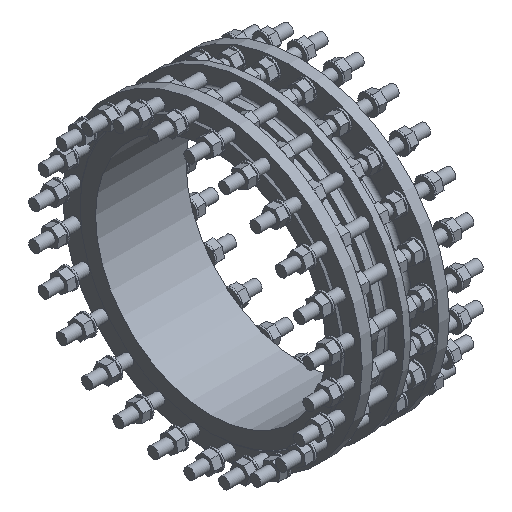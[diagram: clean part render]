
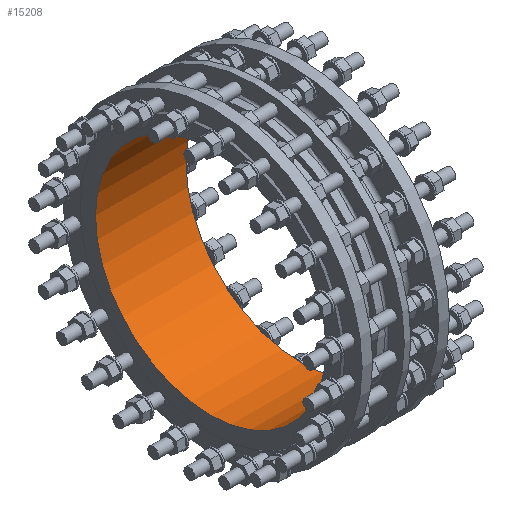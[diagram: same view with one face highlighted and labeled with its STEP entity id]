
A CAD part, isometric view. The second image highlights one B-rep face of the part: STEP entity #15208.
In plain terms, the highlighted cylindrical face has radius 350 mm (diameter 700 mm), a full revolution.
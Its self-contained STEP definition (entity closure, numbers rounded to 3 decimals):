
#2220 = CIRCLE ( 'NONE', #15096, 350. ) ;
#4308 = VERTEX_POINT ( 'NONE', #9689 ) ;
#4692 = EDGE_LOOP ( 'NONE', ( #27743 ) ) ;
#4708 = DIRECTION ( 'NONE',  ( 0., 0., 1. ) ) ;
#9689 = CARTESIAN_POINT ( 'NONE',  ( -20., 0., -350. ) ) ;
#10081 = DIRECTION ( 'NONE',  ( -1., 0., 0. ) ) ;
#10515 = DIRECTION ( 'NONE',  ( -1., 0., 0. ) ) ;
#11030 = DIRECTION ( 'NONE',  ( 1., 0., 0. ) ) ;
#15096 = AXIS2_PLACEMENT_3D ( 'NONE', #16088, #10515, #27799 ) ;
#15208 = ADVANCED_FACE ( 'NONE', ( #33512, #21595 ), #16031, .F. ) ;
#15351 = VERTEX_POINT ( 'NONE', #33194 ) ;
#15975 = EDGE_LOOP ( 'NONE', ( #31856 ) ) ;
#16028 = EDGE_CURVE ( 'NONE', #15351, #15351, #2220, .T. ) ;
#16031 = CYLINDRICAL_SURFACE ( 'NONE', #22391, 350. ) ;
#16088 = CARTESIAN_POINT ( 'NONE',  ( 255., 0., 0. ) ) ;
#19672 = AXIS2_PLACEMENT_3D ( 'NONE', #34641, #11030, #20058 ) ;
#20058 = DIRECTION ( 'NONE',  ( 0., 0., -1. ) ) ;
#21595 = FACE_OUTER_BOUND ( 'NONE', #15975, .T. ) ;
#22391 = AXIS2_PLACEMENT_3D ( 'NONE', #36585, #10081, #4708 ) ;
#22719 = EDGE_CURVE ( 'NONE', #4308, #4308, #33142, .T. ) ;
#27743 = ORIENTED_EDGE ( 'NONE', *, *, #16028, .F. ) ;
#27799 = DIRECTION ( 'NONE',  ( 0., 0., 1. ) ) ;
#31856 = ORIENTED_EDGE ( 'NONE', *, *, #22719, .F. ) ;
#33142 = CIRCLE ( 'NONE', #19672, 350. ) ;
#33194 = CARTESIAN_POINT ( 'NONE',  ( 255., 0., 350. ) ) ;
#33512 = FACE_OUTER_BOUND ( 'NONE', #4692, .T. ) ;
#34641 = CARTESIAN_POINT ( 'NONE',  ( -20., 0., 0. ) ) ;
#36585 = CARTESIAN_POINT ( 'NONE',  ( 0., 0., 0. ) ) ;
